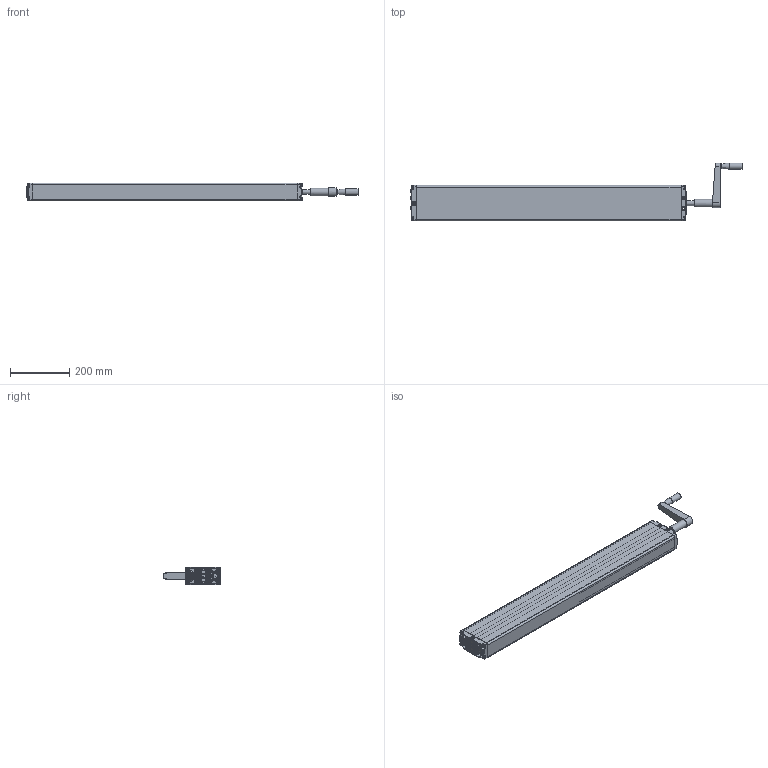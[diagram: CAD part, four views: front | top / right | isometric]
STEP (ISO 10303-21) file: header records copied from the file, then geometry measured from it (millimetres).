
FILE_DESCRIPTION(/* description */ ('Unknown'),/* implementation_level */ '2;1');
FILE_NAME(/* name */ '312.20167 Pumpe PB 5440 W mit Handkurbel',/* time_stamp */ '2016-10-24T08:59:03+02:00',/* author */ ('Unknown'),/* organization */ ('Unknown'),/* preprocessor_version */ 'ST-DEVELOPER v16.7',/* originating_system */ 'DEX',/* authorisation */ $);
FILE_SCHEMA (('AUTOMOTIVE_DESIGN {1 0 10303 214 3 1 1}'));
Products named in the file (22): 102.00167; 115.00027; 125.00044; 115.00007; 142.00021; 125.00021; 113.00005; 128.00001; 125.00052; 126.00013; 125.00053; 127.00014; Handgriff; 142.00013; 142.00110; 125.00147; 115.00140; 126.00006; 122.00040; 119.00047; 126.00005; 142.00057
Assembly tree (32 placements, depth 3):
  102.00167
    115.00027  x5
      125.00044
      115.00007
      142.00021
      125.00021
    113.00005
      128.00001
      125.00052
      126.00013
      125.00053
      127.00014
      Handgriff
    142.00013  x8
    142.00110
    125.00147
    115.00140
      126.00006
      122.00040
    119.00047
    126.00005
    142.00057
Bounding box: 1120.22 x 195.5 x 60.3 mm (x, y, z)
Volume: 1235254 mm3; surface area: 816873.8 mm2
Topology: 36 solids, 36 shells, 2636 faces, 6224 edges, 3595 vertices
Faces by surface type: plane 736, bspline 707, cylinder 589, cone 370, torus 174, sphere 60
Full cylindrical faces by diameter (mm): 3.5 x5, 4 x2, 4.1 x5, 4.2 x6, 4.917 x2, 5 x8, 6.917 x10, 8 x12, 9.8 x8, 10 x4, 10.4 x6, 12.8 x1, 13 x1, 13.9 x10, 14 x1, 15.8 x1, 16 x2, 17 x1, 17.3 x5, 18 x2, 19 x1, 20.6 x1, 21 x1, 21.2 x1, 22 x1, 25.5 x1
Entity records: 101371 total; most frequent: CARTESIAN_POINT 55714, ORIENTED_EDGE 8538, DIRECTION 6965, EDGE_CURVE 4269, AXIS2_PLACEMENT_3D 2803, VERTEX_POINT 2631, FACE_BOUND 2120, EDGE_LOOP 2117
